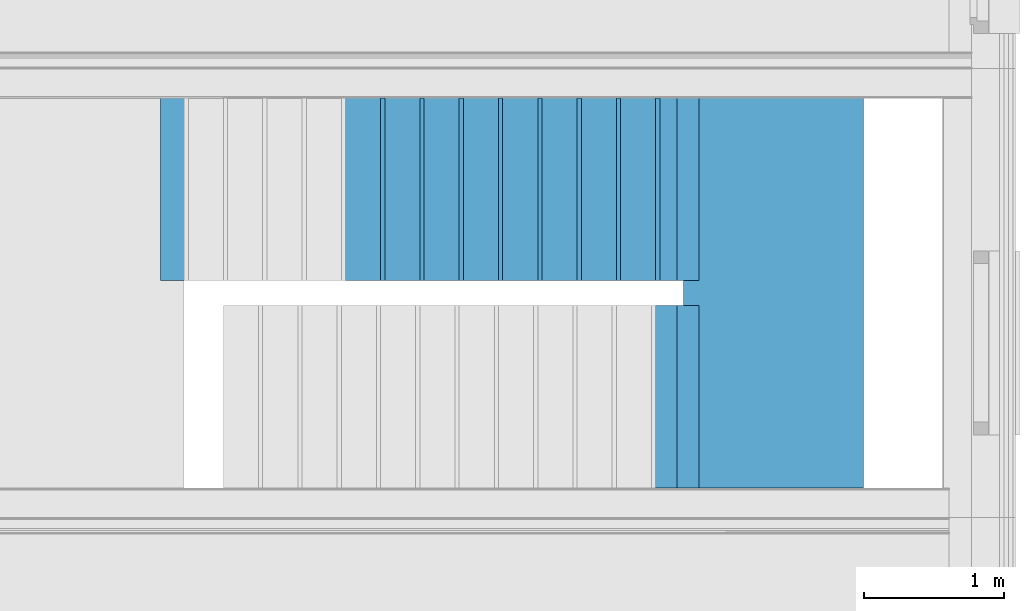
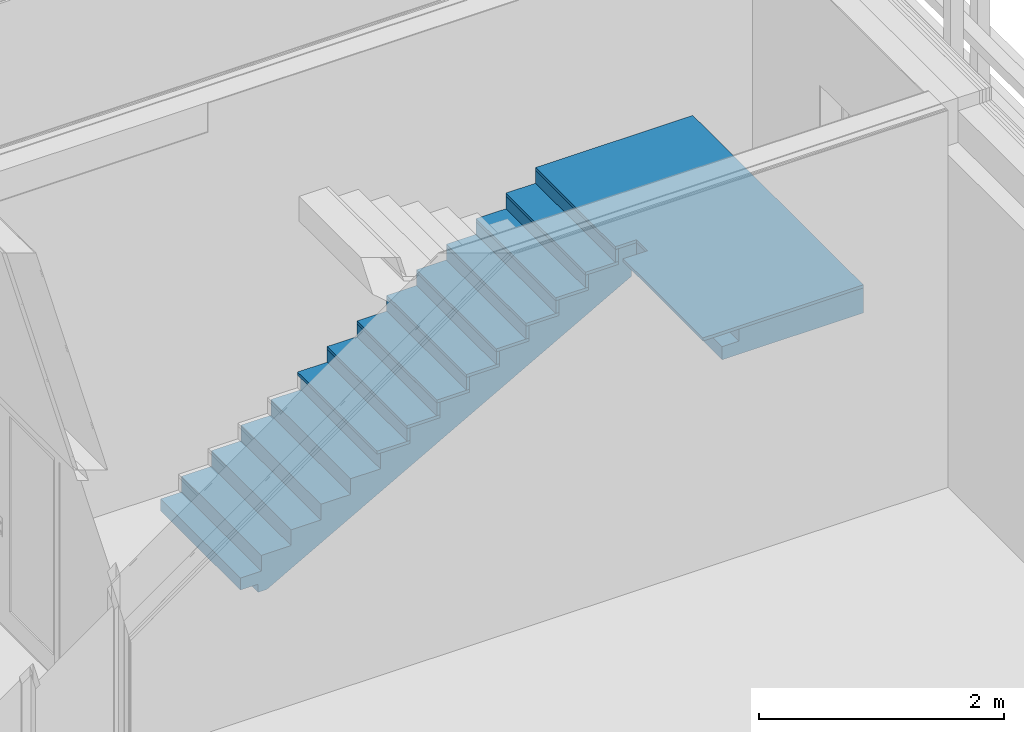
# One storey, part 45 of 139: 19 members, 1 element without a shape of its own.
"""IFC2X3 building model written with IfcOpenShell, lengths in millimetres."""

from ifc_helpers import new_model, entity, si_unit, converted_unit, derived_unit, money_unit, direction, frame, origin_with_axes, place, context, subcontext, project, spatial, faceted_brep, material, type_object, element, aggregate, save


model = new_model("IFC2X3")

# Units and contexts
model_context = context("Model", 3, precision=0.01, world=origin_with_axes(), true_north=direction((0.0, 1.0)))
body_context = subcontext(model_context, "Body", "Model", "MODEL_VIEW")
ifc_project = project(units=[si_unit("LENGTHUNIT", "METRE", prefix="MILLI"), si_unit("AREAUNIT", "SQUARE_METRE"), si_unit("VOLUMEUNIT", "CUBIC_METRE"), converted_unit("PLANEANGLEUNIT", "DEGREE", entity("IfcPlaneAngleMeasure", 0.0174532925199), si_unit("PLANEANGLEUNIT", "RADIAN"), dimensions=[0, 0, 0, 0, 0, 0, 0]), money_unit("EUR"), converted_unit("TIMEUNIT", "Year", entity("IfcTimeMeasure", 31556926.0), si_unit("TIMEUNIT", "SECOND"), dimensions=[0, 0, 1, 0, 0, 0, 0]), si_unit("MASSUNIT", "GRAM", prefix="KILO"), si_unit("THERMODYNAMICTEMPERATUREUNIT", "DEGREE_CELSIUS"), si_unit("LUMINOUSINTENSITYUNIT", "LUMEN"), si_unit("ENERGYUNIT", "JOULE", prefix="MEGA"), derived_unit("THERMALCONDUCTANCEUNIT", [(si_unit("POWERUNIT", "WATT"), 1), (si_unit("LENGTHUNIT", "METRE"), -1), (si_unit("THERMODYNAMICTEMPERATUREUNIT", "KELVIN"), -1)]), derived_unit("SPECIFICHEATCAPACITYUNIT", [(si_unit("ENERGYUNIT", "JOULE"), 1), (si_unit("MASSUNIT", "GRAM", prefix="KILO"), -1), (si_unit("THERMODYNAMICTEMPERATUREUNIT", "KELVIN"), -1)]), derived_unit("MASSDENSITYUNIT", [(si_unit("MASSUNIT", "GRAM", prefix="KILO"), 1), (si_unit("VOLUMEUNIT", "CUBIC_METRE"), -1)])], contexts=[model_context])

# Site, building, storey
site_placement = place(None, origin_with_axes())
site = spatial("IfcSite", under=ifc_project, at=site_placement, Name="Kolde pst 67a", CompositionType="ELEMENT")
building_placement = place(site_placement, origin_with_axes())
building = spatial("IfcBuilding", under=site, at=building_placement, Name="Riigigümnaasium", CompositionType="ELEMENT")
storey_placement = place(building_placement, frame((0.0, 0.0, 4600.0), z_axis=(0.0, 0.0, 1.0), x_axis=(1.0, 0.0, 0.0)))
storey = spatial("IfcBuildingStorey", under=building, at=storey_placement, Name="2. korrus", CompositionType="ELEMENT", Elevation=4600.0)

# Stair, members
stair_placement = place(storey_placement, frame((78829.6164915, 9409.92216773, 0.0), z_axis=(0.0, 0.0, 1.0), x_axis=(0.999999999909, 1.34692449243e-05, 0.0)))
stair = element("IfcStair", 1, at=stair_placement, inside=storey, Name="TREPP", ShapeType="NOTDEFINED")
ifc_material_1 = material(Name="_KANDETARIND - raudbetoon C25/30 vastavalt EK osale")
member_type_1 = type_object("IfcMemberType", Name="IfcMember", PredefinedType="USERDEFINED")
member_1_placement = place(stair_placement, origin_with_axes())
member_1 = element("IfcMember", 2, at=member_1_placement, type_object=member_type_1, material=ifc_material_1, Name="TT KONSTRUKTSIOON - 008", ObjectType="Stair Structure", context=body_context, shape_type="Brep", body=[
    faceted_brep([(-0.000269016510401, -19.9999986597, -150.0), (-168.000269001, -19.9977380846, -150.0), (-167.982777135, 1279.95179541, -150.0), (0.0172228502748, 1279.94953483, -150.0), (3266.66639711, -20.0439435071, 1547.14250951), (3359.99975694, -20.0451786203, 1599.2258577), (3509.99975692, -20.0472030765, 1682.9312149), (3509.99975692, -20.047203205, 1881.25), (3669.99974685, -20.0493624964, 1881.25), (3669.99974685, -20.0493624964, 2001.25), (3389.99972087, -20.045583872, 2001.25), (3389.99972087, -20.045583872, 1845.0), (3359.99973837, -20.0451947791, 1845.0), (3109.9997307, -20.0418320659, 1845.0), (3109.9997307, -20.0418320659, 1688.75), (2829.99973073, -20.0380662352, 1688.75), (2829.99973073, -20.0380662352, 1532.5), (2549.99973075, -20.0343004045, 1532.5), (2549.99973075, -20.0343004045, 1376.25), (2269.99973078, -20.0305329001, 1376.25), (2269.99973078, -20.0305329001, 1220.0), (1989.9997308, -20.0267670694, 1220.0), (1989.9997308, -20.0267670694, 1063.75), (1709.99973083, -20.0230012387, 1063.75), (1709.99973083, -20.0230012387, 907.5), (1429.99973085, -20.019235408, 907.5), (1429.99973085, -20.019235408, 751.25), (1149.99973088, -20.0154679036, 751.25), (1149.99973088, -20.0154679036, 595.0), (869.999730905, -20.0117020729, 595.0), (869.999730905, -20.0117020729, 438.75), (589.99973093, -20.0079362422, 438.75), (589.99973093, -20.0079362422, 282.5), (309.999730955, -20.0041704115, 282.5), (309.999730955, -20.0041704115, 126.25), (29.9997309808, -20.0004029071, 126.25), (29.9997309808, -20.0004029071, -30.0), (-0.000269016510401, -19.9999986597, -30.0), (-168.000269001, -19.9977380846, -30.0), (-0.00026901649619, -19.9999995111, -230.0), (82.0270205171, -20.0011033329, -230.0), (93.3330643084, -20.0012554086, -223.690823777), (186.666397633, -20.0025108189, -171.607490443), (279.999730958, -20.0037662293, -119.52415711), (373.333064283, -20.0050216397, -67.4408237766), (466.666397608, -20.00627705, -15.3574904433), (559.999730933, -20.0075324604, 36.72584289), (653.333064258, -20.0087946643, 88.8091762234), (746.666397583, -20.0100500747, 140.892509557), (839.999730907, -20.0113013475, 192.97584289), (933.333064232, -20.0125567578, 245.059176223), (1026.66639756, -20.0138121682, 297.142509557), (1119.99973088, -20.0150649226, 349.22584289), (1213.33306421, -20.016320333, 401.309176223), (1306.66639753, -20.0175757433, 453.392509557), (1399.99973086, -20.0188311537, 505.47584289), (1493.33306418, -20.0200865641, 557.559176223), (1586.66639751, -20.0213419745, 609.642509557), (1679.99973083, -20.0225973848, 661.72584289), (1773.33306416, -20.0238603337, 713.809176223), (1866.66639748, -20.0251157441, 765.892509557), (1959.99973081, -20.0263670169, 817.97584289), (2053.33306413, -20.0276224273, 870.059176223), (2146.66639746, -20.0288778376, 922.142509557), (2239.99973078, -20.030129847, 974.22584289), (2333.33306411, -20.0313852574, 1026.30917622), (2426.66639743, -20.0326406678, 1078.39250956), (2519.99973076, -20.0338960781, 1130.47584289), (2613.33306408, -20.0351514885, 1182.55917622), (2706.66639741, -20.0364068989, 1234.64250955), (2799.99973073, -20.0376623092, 1286.72584288), (2893.33306405, -20.0389260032, 1338.80917622), (2986.66639738, -20.0401814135, 1390.89250955), (3079.9997307, -20.0414326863, 1442.97584289), (3173.33306391, -20.0426880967, 1495.05917619), (-167.982777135, 1279.95179541, -30.0), (3110.0172161, 1279.90770325, 1845.0), (3360.01721087, 1279.9043446, 1845.0), (3390.01720204, 1279.90393313, 1845.0), (3390.01720204, 1279.90393313, 2001.25), (3670.01722799, 1279.90015618, 2001.25), (3670.01722799, 1279.90015618, 1881.25), (3510.01723807, 1279.90231488, 1881.25), (3510.01723807, 1279.9023156, 1682.93121232), (3360.01723808, 1279.90434006, 1599.22585513), (3266.68388275, 1279.9056005, 1547.14250951), (3173.35054942, 1279.90685591, 1495.05917619), (3080.0172161, 1279.90811132, 1442.97584287), (2986.68388277, 1279.90936673, 1390.89250955), (2893.35054945, 1279.91062214, 1338.80917622), (2800.01721612, 1279.91187755, 1286.72584289), (2706.6838828, 1279.91313296, 1234.64250956), (2613.35054947, 1279.91438837, 1182.55917622), (2520.01721615, 1279.91564378, 1130.47584289), (2426.68388282, 1279.91689919, 1078.39250956), (2333.3505495, 1279.9181546, 1026.30917622), (2240.01721618, 1279.91941001, 974.22584289), (2146.68388285, 1279.92066542, 922.142509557), (2053.35054953, 1279.92192083, 870.059176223), (1960.0172162, 1279.92317624, 817.97584289), (1866.68388288, 1279.92443165, 765.892509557), (1773.35054955, 1279.92568706, 713.809176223), (1680.01721623, 1279.92694247, 661.72584289), (1586.6838829, 1279.92819788, 609.642509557), (1493.35054958, 1279.92945329, 557.559176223), (1400.01721625, 1279.9307087, 505.47584289), (1306.68388293, 1279.93196411, 453.392509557), (1213.3505496, 1279.93321952, 401.309176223), (1120.01721628, 1279.93447493, 349.22584289), (1026.68388295, 1279.93573034, 297.142509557), (933.350549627, 1279.93698575, 245.059176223), (840.017216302, 1279.93824116, 192.97584289), (746.683882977, 1279.93949658, 140.892509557), (653.350549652, 1279.94075199, 88.8091762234), (560.017216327, 1279.9420074, 36.72584289), (466.683883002, 1279.94326281, -15.3574904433), (373.350549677, 1279.94451822, -67.4408237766), (280.017216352, 1279.94577363, -119.52415711), (186.683883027, 1279.94702401, -171.607490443), (93.3505497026, 1279.94827942, -223.690823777), (82.0445059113, 1279.9484315, -230.0), (0.0172187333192, 1279.94953483, -230.0), (0.0172228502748, 1279.94953483, -30.0), (30.017216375, 1279.94913179, -30.0), (30.017216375, 1279.94913179, 126.25), (310.01721635, 1279.94536556, 126.25), (310.01721635, 1279.94536556, 282.5), (590.017216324, 1279.94159933, 282.5), (590.017216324, 1279.94159933, 438.75), (870.017216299, 1279.9378331, 438.75), (870.017216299, 1279.9378331, 595.0), (1150.01721627, 1279.93406687, 595.0), (1150.01721627, 1279.93406687, 751.25), (1430.01721625, 1279.93030064, 751.25), (1430.01721625, 1279.93030064, 907.5), (1710.01721622, 1279.92653441, 907.5), (1710.01721622, 1279.92653441, 1063.75), (1990.0172162, 1279.92276818, 1063.75), (1990.0172162, 1279.92276818, 1220.0), (2270.01721617, 1279.91900195, 1220.0), (2270.01721617, 1279.91900195, 1376.25), (2550.01721615, 1279.91523571, 1376.25), (2550.01721615, 1279.91523571, 1532.5), (2830.01721612, 1279.91146948, 1532.5), (2830.01721612, 1279.91146948, 1688.75), (3110.0172161, 1279.90770325, 1688.75)], [[[0, 1, 2, 3]], [[4, 5, 6, 7, 8, 9, 10, 11, 12, 13, 14, 15, 16, 17, 18, 19, 20, 21, 22, 23, 24, 25, 26, 27, 28, 29, 30, 31, 32, 33, 34, 35, 36, 37, 38, 1, 0, 39, 40, 41, 42, 43, 44, 45, 46, 47, 48, 49, 50, 51, 52, 53, 54, 55, 56, 57, 58, 59, 60, 61, 62, 63, 64, 65, 66, 67, 68, 69, 70, 71, 72, 73, 74]], [[38, 75, 2, 1]], [[76, 77, 78, 79, 80, 81, 82, 83, 84, 85, 86, 87, 88, 89, 90, 91, 92, 93, 94, 95, 96, 97, 98, 99, 100, 101, 102, 103, 104, 105, 106, 107, 108, 109, 110, 111, 112, 113, 114, 115, 116, 117, 118, 119, 120, 121, 3, 2, 75, 122, 123, 124, 125, 126, 127, 128, 129, 130, 131, 132, 133, 134, 135, 136, 137, 138, 139, 140, 141, 142, 143, 144, 145]], [[3, 121, 39, 0]], [[85, 84, 83, 6, 5, 4]], [[82, 7, 6, 83]], [[8, 7, 82, 81]], [[81, 80, 9, 8]], [[80, 79, 10, 9]], [[10, 79, 78, 11]], [[13, 12, 11, 78, 77, 76]], [[13, 76, 145, 14]], [[15, 14, 145, 144]], [[15, 144, 143, 16]], [[17, 16, 143, 142]], [[17, 142, 141, 18]], [[19, 18, 141, 140]], [[19, 140, 139, 20]], [[21, 20, 139, 138]], [[21, 138, 137, 22]], [[23, 22, 137, 136]], [[23, 136, 135, 24]], [[25, 24, 135, 134]], [[25, 134, 133, 26]], [[27, 26, 133, 132]], [[27, 132, 131, 28]], [[29, 28, 131, 130]], [[29, 130, 129, 30]], [[31, 30, 129, 128]], [[31, 128, 127, 32]], [[33, 32, 127, 126]], [[33, 126, 125, 34]], [[35, 34, 125, 124]], [[35, 124, 123, 36]], [[122, 75, 38, 37, 36, 123]], [[39, 121, 120, 40]], [[41, 40, 120, 119]], [[42, 41, 119, 118]], [[43, 42, 118, 117]], [[44, 43, 117, 116]], [[45, 44, 116, 115]], [[46, 45, 115, 114]], [[47, 46, 114, 113]], [[48, 47, 113, 112]], [[49, 48, 112, 111]], [[50, 49, 111, 110]], [[51, 50, 110, 109]], [[52, 51, 109, 108]], [[53, 52, 108, 107]], [[54, 53, 107, 106]], [[55, 54, 106, 105]], [[56, 55, 105, 104]], [[57, 56, 104, 103]], [[58, 57, 103, 102]], [[59, 58, 102, 101]], [[60, 59, 101, 100]], [[61, 60, 100, 99]], [[62, 61, 99, 98]], [[63, 62, 98, 97]], [[64, 63, 97, 96]], [[65, 64, 96, 95]], [[66, 65, 95, 94]], [[67, 66, 94, 93]], [[68, 67, 93, 92]], [[69, 68, 92, 91]], [[70, 69, 91, 90]], [[71, 70, 90, 89]], [[72, 71, 89, 88]], [[73, 72, 88, 87]], [[74, 73, 87, 86]], [[4, 74, 86, 85]]]),
])
member_2_placement = place(stair_placement, origin_with_axes())
member_2 = element("IfcMember", 3, at=member_2_placement, type_object=member_type_1, material=ifc_material_1, Name="TM KONSTRUKTSIOON - 005", ObjectType="Stair Structure", context=body_context, shape_type="Brep", body=[
    faceted_brep([(3559.49990376, -20.0478818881, 1881.25), (3559.49990376, -20.0478818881, 2001.25), (3669.99974685, -20.0493624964, 2001.25), (3669.99974685, -20.0493624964, 1881.25), (3559.49747933, -200.045179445, 2001.25), (3559.49990376, -20.0478818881, 1751.25), (3559.49747933, -200.045179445, 1751.25), (3559.49747933, -200.045179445, 1881.25), (3669.9973028, -200.045179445, 2001.25), (3669.9973028, -1500.04519461, 2001.25), (4839.97980631, -1500.04519461, 2001.25), (4840.01725407, 1279.88441487, 2001.25), (3670.01722799, 1279.90015618, 2001.25), (3670.01722799, 1279.90015618, 1881.25), (3509.99975692, -20.0472151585, 1881.25), (3510.01723807, 1279.90231026, 1881.25), (3509.99975692, -20.0472151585, 1751.25), (3510.01723807, 1279.90231026, 1751.25), (4840.01725407, 1279.88441487, 1751.25), (4839.97980631, -1500.04519461, 1751.25), (3509.99730585, -1500.04519461, 1751.25), (3509.99730586, -200.044512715, 1751.25), (3509.99730586, -200.044512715, 1881.25), (3669.9973028, -200.045179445, 1881.25), (3669.9973028, -1500.04519461, 1881.25), (3509.99730585, -1500.04519461, 1881.25)], [[[0, 1, 2, 3]], [[4, 1, 0, 5, 6, 7]], [[1, 4, 8, 9, 10, 11, 12, 2]], [[2, 12, 13, 3]], [[14, 0, 3, 13, 15]], [[0, 14, 16, 5]], [[5, 16, 17, 18, 19, 20, 21, 6]], [[22, 7, 6, 21]], [[4, 7, 23, 8]], [[23, 24, 9, 8]], [[10, 9, 24, 25, 20, 19]], [[18, 11, 10, 19]], [[18, 17, 15, 13, 12, 11]], [[16, 14, 15, 17]], [[22, 21, 20, 25]], [[7, 22, 25, 24, 23]]]),
])
ifc_material_2 = material(Name="_VIIMISTLUSKIHT - viimistlus vastavalt SA osale")
member_type_2 = type_object("IfcMemberType", Name="IfcMember", PredefinedType="USERDEFINED")
member_3_placement = place(stair_placement, frame((1400.00874291, 649.981168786, 907.5), z_axis=(0.0, 0.0, 1.0), x_axis=(1.34508253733e-05, 0.99999999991, 0.0)))
member_3 = element("IfcMember", 4, at=member_3_placement, type_object=member_type_2, material=ifc_material_2, Name="TV TÕUS - 122", ObjectType="Stair Riser", context=body_context, shape_type="Brep", body=[
    faceted_brep([(629.949534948, 0.0, 0.0), (-670.0, 0.0, 0.0), (-670.0, -30.0, 0.0), (629.949534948, -30.0, 0.0), (629.949534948, 0.0, -126.25), (-670.0, 0.0, -126.25), (-670.0, -30.0, -126.25), (629.949534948, -30.0, -126.25)], [[[0, 1, 2, 3]], [[4, 5, 1, 0]], [[1, 5, 6, 2]], [[3, 2, 6, 7]], [[0, 3, 7, 4]], [[7, 6, 5, 4]]]),
])
member_4_placement = place(stair_placement, frame((1680.00874288, 649.977402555, 1063.75), z_axis=(0.0, 0.0, 1.0), x_axis=(1.3450825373e-05, 0.99999999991, 0.0)))
member_4 = element("IfcMember", 5, at=member_4_placement, type_object=member_type_2, material=ifc_material_2, Name="TV TÕUS - 123", ObjectType="Stair Riser", context=body_context, shape_type="Brep", body=[
    faceted_brep([(629.949534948, 0.0, 0.0), (-670.0, 0.0, 0.0), (-670.0, -30.0, 0.0), (629.949534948, -30.0, 0.0), (629.949534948, 0.0, -126.25), (-670.0, 0.0, -126.25), (-670.0, -30.0, -126.25), (629.949534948, -30.0, -126.25)], [[[0, 1, 2, 3]], [[4, 5, 1, 0]], [[1, 5, 6, 2]], [[3, 2, 6, 7]], [[0, 3, 7, 4]], [[7, 6, 5, 4]]]),
])
member_5_placement = place(stair_placement, frame((1960.00874286, 649.973636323, 1220.0), z_axis=(0.0, 0.0, 1.0), x_axis=(1.34508253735e-05, 0.99999999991, 0.0)))
member_5 = element("IfcMember", 6, at=member_5_placement, type_object=member_type_2, material=ifc_material_2, Name="TV TÕUS - 124", ObjectType="Stair Riser", context=body_context, shape_type="Brep", body=[
    faceted_brep([(629.949534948, 0.0, 0.0), (-670.0, 0.0, 0.0), (-670.0, -30.0, 0.0), (629.949534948, -30.0, 0.0), (629.949534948, 0.0, -126.25), (-670.0, 0.0, -126.25), (-670.0, -30.0, -126.25), (629.949534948, -30.0, -126.25)], [[[0, 1, 2, 3]], [[4, 5, 1, 0]], [[1, 5, 6, 2]], [[3, 2, 6, 7]], [[0, 3, 7, 4]], [[7, 6, 5, 4]]]),
])
member_6_placement = place(stair_placement, frame((2240.00874283, 649.969870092, 1376.25), z_axis=(0.0, 0.0, 1.0), x_axis=(1.34508253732e-05, 0.99999999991, 0.0)))
member_6 = element("IfcMember", 7, at=member_6_placement, type_object=member_type_2, material=ifc_material_2, Name="TV TÕUS - 125", ObjectType="Stair Riser", context=body_context, shape_type="Brep", body=[
    faceted_brep([(629.949534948, 0.0, 0.0), (-670.0, 0.0, 0.0), (-670.0, -30.0, 0.0), (629.949534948, -30.0, 0.0), (629.949534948, 0.0, -126.25), (-670.0, 0.0, -126.25), (-670.0, -30.0, -126.25), (629.949534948, -30.0, -126.25)], [[[0, 1, 2, 3]], [[4, 5, 1, 0]], [[1, 5, 6, 2]], [[3, 2, 6, 7]], [[0, 3, 7, 4]], [[7, 6, 5, 4]]]),
])
member_7_placement = place(stair_placement, frame((2520.00874281, 649.966103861, 1532.5), z_axis=(0.0, 0.0, 1.0), x_axis=(1.34508253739e-05, 0.99999999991, 0.0)))
member_7 = element("IfcMember", 8, at=member_7_placement, type_object=member_type_2, material=ifc_material_2, Name="TV TÕUS - 126", ObjectType="Stair Riser", context=body_context, shape_type="Brep", body=[
    faceted_brep([(629.949534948, 0.0, 0.0), (-670.0, 0.0, 0.0), (-670.0, -30.0, 0.0), (629.949534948, -30.0, 0.0), (629.949534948, 0.0, -126.25), (-670.0, 0.0, -126.25), (-670.0, -30.0, -126.25), (629.949534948, -30.0, -126.25)], [[[0, 1, 2, 3]], [[4, 5, 1, 0]], [[1, 5, 6, 2]], [[3, 2, 6, 7]], [[0, 3, 7, 4]], [[7, 6, 5, 4]]]),
])
member_8_placement = place(stair_placement, frame((2800.00874278, 649.96233763, 1688.75), z_axis=(0.0, 0.0, 1.0), x_axis=(1.34508253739e-05, 0.99999999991, 0.0)))
member_8 = element("IfcMember", 9, at=member_8_placement, type_object=member_type_2, material=ifc_material_2, Name="TV TÕUS - 127", ObjectType="Stair Riser", context=body_context, shape_type="Brep", body=[
    faceted_brep([(629.949534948, 0.0, 0.0), (-670.0, 0.0, 0.0), (-670.0, -30.0, 0.0), (629.949534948, -30.0, 0.0), (629.949534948, 0.0, -126.25), (-670.0, 0.0, -126.25), (-670.0, -30.0, -126.25), (629.949534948, -30.0, -126.25)], [[[0, 1, 2, 3]], [[4, 5, 1, 0]], [[1, 5, 6, 2]], [[3, 2, 6, 7]], [[0, 3, 7, 4]], [[7, 6, 5, 4]]]),
])
member_9_placement = place(stair_placement, frame((3080.00874276, 649.958571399, 1845.0), z_axis=(0.0, 0.0, 1.0), x_axis=(1.34508253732e-05, 0.99999999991, 0.0)))
member_9 = element("IfcMember", 10, at=member_9_placement, type_object=member_type_2, material=ifc_material_2, Name="TV TÕUS - 128", ObjectType="Stair Riser", context=body_context, shape_type="Brep", body=[
    faceted_brep([(629.949534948, 0.0, 0.0), (-670.0, 0.0, 0.0), (-670.0, -30.0, 0.0), (629.949534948, -30.0, 0.0), (629.949534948, 0.0, -126.25), (-670.0, 0.0, -126.25), (-670.0, -30.0, -126.25), (629.949534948, -30.0, -126.25)], [[[0, 1, 2, 3]], [[4, 5, 1, 0]], [[1, 5, 6, 2]], [[3, 2, 6, 7]], [[0, 3, 7, 4]], [[7, 6, 5, 4]]]),
])
member_10_placement = place(stair_placement, frame((3360.00874273, 649.954805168, 2001.25), z_axis=(0.0, 0.0, 1.0), x_axis=(1.34508253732e-05, 0.99999999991, 0.0)))
member_10 = element("IfcMember", 11, at=member_10_placement, type_object=member_type_2, material=ifc_material_2, Name="SL RISER - 005", ObjectType="Stair Riser", context=body_context, shape_type="Brep", body=[
    faceted_brep([(629.949534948, -30.0, 0.0), (629.949534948, 0.0, 0.0), (-670.0, 0.0, 0.0), (-670.0, -30.0, 0.0), (629.949534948, 0.0, -126.25), (629.949534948, -30.0, -126.25), (-670.0, 0.0, -126.25), (-670.0, -30.0, -126.25)], [[[0, 1, 2, 3]], [[4, 1, 0, 5]], [[1, 4, 6, 2]], [[3, 2, 6, 7]], [[5, 0, 3, 7]], [[4, 5, 7, 6]]]),
])
member_type_3 = type_object("IfcMemberType", Name="IfcMember", PredefinedType="USERDEFINED")
member_11_placement = place(stair_placement, frame((1120.00874294, 649.984935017, 781.25), z_axis=(0.0, 0.0, 1.0), x_axis=(1.34508253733e-05, 0.99999999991, 0.0)))
member_11 = element("IfcMember", 12, at=member_11_placement, type_object=member_type_3, material=ifc_material_2, Name="TV ASTE - 121", ObjectType="Stair Tread", context=body_context, shape_type="Brep", body=[
    faceted_brep([(-670.0, 0.0, -30.0), (-670.0, 0.0, 0.0), (629.949534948, 0.0, 0.0), (629.949534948, 0.0, -30.0), (-670.0, -310.000006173, -30.0), (-670.0, -310.000006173, 0.0), (629.949534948, -309.999993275, 0.0), (629.949534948, -309.999993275, -30.0)], [[[0, 1, 2, 3]], [[4, 5, 1, 0]], [[1, 5, 6, 2]], [[3, 2, 6, 7]], [[0, 3, 7, 4]], [[7, 6, 5, 4]]]),
])
member_12_placement = place(stair_placement, frame((1400.00874291, 649.981168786, 937.5), z_axis=(0.0, 0.0, 1.0), x_axis=(1.34508253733e-05, 0.99999999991, 0.0)))
member_12 = element("IfcMember", 13, at=member_12_placement, type_object=member_type_3, material=ifc_material_2, Name="TV ASTE - 122", ObjectType="Stair Tread", context=body_context, shape_type="Brep", body=[
    faceted_brep([(-670.0, 0.0, -30.0), (-670.0, 0.0, 0.0), (629.949534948, 0.0, 0.0), (629.949534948, 0.0, -30.0), (-670.0, -310.000006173, -30.0), (-670.0, -310.000006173, 0.0), (629.949534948, -309.999993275, 0.0), (629.949534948, -309.999993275, -30.0)], [[[0, 1, 2, 3]], [[4, 5, 1, 0]], [[1, 5, 6, 2]], [[3, 2, 6, 7]], [[0, 3, 7, 4]], [[7, 6, 5, 4]]]),
])
member_13_placement = place(stair_placement, frame((1680.00874288, 649.977402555, 1093.75), z_axis=(0.0, 0.0, 1.0), x_axis=(1.3450825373e-05, 0.99999999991, 0.0)))
member_13 = element("IfcMember", 14, at=member_13_placement, type_object=member_type_3, material=ifc_material_2, Name="TV ASTE - 123", ObjectType="Stair Tread", context=body_context, shape_type="Brep", body=[
    faceted_brep([(-670.0, 0.0, -30.0), (-670.0, 0.0, 0.0), (629.949534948, 0.0, 0.0), (629.949534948, 0.0, -30.0), (-670.0, -310.000006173, -30.0), (-670.0, -310.000006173, 0.0), (629.949534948, -309.999993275, 0.0), (629.949534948, -309.999993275, -30.0)], [[[0, 1, 2, 3]], [[4, 5, 1, 0]], [[1, 5, 6, 2]], [[3, 2, 6, 7]], [[0, 3, 7, 4]], [[7, 6, 5, 4]]]),
])
member_14_placement = place(stair_placement, frame((1960.00874286, 649.973636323, 1250.0), z_axis=(0.0, 0.0, 1.0), x_axis=(1.34508253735e-05, 0.99999999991, 0.0)))
member_14 = element("IfcMember", 15, at=member_14_placement, type_object=member_type_3, material=ifc_material_2, Name="TV ASTE - 124", ObjectType="Stair Tread", context=body_context, shape_type="Brep", body=[
    faceted_brep([(-670.0, 0.0, -30.0), (-670.0, 0.0, 0.0), (629.949534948, 0.0, 0.0), (629.949534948, 0.0, -30.0), (-670.0, -310.000006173, -30.0), (-670.0, -310.000006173, 0.0), (629.949534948, -309.999993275, 0.0), (629.949534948, -309.999993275, -30.0)], [[[0, 1, 2, 3]], [[4, 5, 1, 0]], [[1, 5, 6, 2]], [[3, 2, 6, 7]], [[0, 3, 7, 4]], [[7, 6, 5, 4]]]),
])
member_15_placement = place(stair_placement, frame((2240.00874283, 649.969870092, 1406.25), z_axis=(0.0, 0.0, 1.0), x_axis=(1.34508253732e-05, 0.99999999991, 0.0)))
member_15 = element("IfcMember", 16, at=member_15_placement, type_object=member_type_3, material=ifc_material_2, Name="TV ASTE - 125", ObjectType="Stair Tread", context=body_context, shape_type="Brep", body=[
    faceted_brep([(-670.0, 0.0, -30.0), (-670.0, 0.0, 0.0), (629.949534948, 0.0, 0.0), (629.949534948, 0.0, -30.0), (-670.0, -310.000006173, -30.0), (-670.0, -310.000006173, 0.0), (629.949534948, -309.999993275, 0.0), (629.949534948, -309.999993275, -30.0)], [[[0, 1, 2, 3]], [[4, 5, 1, 0]], [[1, 5, 6, 2]], [[3, 2, 6, 7]], [[0, 3, 7, 4]], [[7, 6, 5, 4]]]),
])
member_16_placement = place(stair_placement, frame((2520.00874281, 649.966103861, 1562.5), z_axis=(0.0, 0.0, 1.0), x_axis=(1.34508253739e-05, 0.99999999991, 0.0)))
member_16 = element("IfcMember", 17, at=member_16_placement, type_object=member_type_3, material=ifc_material_2, Name="TV ASTE - 126", ObjectType="Stair Tread", context=body_context, shape_type="Brep", body=[
    faceted_brep([(-670.0, 0.0, -30.0), (-670.0, 0.0, 0.0), (629.949534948, 0.0, 0.0), (629.949534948, 0.0, -30.0), (-670.0, -310.000006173, -30.0), (-670.0, -310.000006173, 0.0), (629.949534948, -309.999993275, 0.0), (629.949534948, -309.999993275, -30.0)], [[[0, 1, 2, 3]], [[4, 5, 1, 0]], [[1, 5, 6, 2]], [[3, 2, 6, 7]], [[0, 3, 7, 4]], [[7, 6, 5, 4]]]),
])
member_17_placement = place(stair_placement, frame((2800.00874278, 649.96233763, 1718.75), z_axis=(0.0, 0.0, 1.0), x_axis=(1.34508253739e-05, 0.99999999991, 0.0)))
member_17 = element("IfcMember", 18, at=member_17_placement, type_object=member_type_3, material=ifc_material_2, Name="TV ASTE - 127", ObjectType="Stair Tread", context=body_context, shape_type="Brep", body=[
    faceted_brep([(-670.0, 0.0, -30.0), (-670.0, 0.0, 0.0), (629.949534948, 0.0, 0.0), (629.949534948, 0.0, -30.0), (-670.0, -310.000006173, -30.0), (-670.0, -310.000006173, 0.0), (629.949534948, -309.999993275, 0.0), (629.949534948, -309.999993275, -30.0)], [[[0, 1, 2, 3]], [[4, 5, 1, 0]], [[1, 5, 6, 2]], [[3, 2, 6, 7]], [[0, 3, 7, 4]], [[7, 6, 5, 4]]]),
])
member_18_placement = place(stair_placement, frame((3080.00874276, 649.958571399, 1875.0), z_axis=(0.0, 0.0, 1.0), x_axis=(1.34508253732e-05, 0.99999999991, 0.0)))
member_18 = element("IfcMember", 19, at=member_18_placement, type_object=member_type_3, material=ifc_material_2, Name="TV ASTE - 128", ObjectType="Stair Tread", context=body_context, shape_type="Brep", body=[
    faceted_brep([(629.949534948, 0.0, -30.0), (-670.0, 0.0, -30.0), (-670.0, 0.0, 0.0), (629.949534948, 0.0, 0.0), (-670.0, -279.999999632, -30.0), (629.949534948, -309.999994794, -30.0), (-670.000000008, -310.000007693, -30.0), (-670.0, -279.999999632, 0.0), (-670.000000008, -310.000007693, 0.0), (629.949534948, -309.999994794, 0.0)], [[[0, 1, 2, 3]], [[4, 1, 0, 5, 6]], [[1, 4, 7, 2]], [[3, 2, 7, 8, 9]], [[5, 0, 3, 9]], [[6, 5, 9, 8]], [[4, 6, 8, 7]]]),
])
member_19_placement = place(stair_placement, frame((3360.00874273, 649.954805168, 2031.25), z_axis=(0.0, 0.0, 1.0), x_axis=(1.34508253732e-05, 0.99999999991, 0.0)))
member_19 = element("IfcMember", 20, at=member_19_placement, type_object=member_type_3, material=ifc_material_2, Name="SL TREAD - 005", ObjectType="Stair Tread", context=body_context, shape_type="Brep", body=[
    faceted_brep([(-849.997301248, -199.500169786, 0.0), (-849.997301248, -199.500169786, -30.0), (-850.000388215, 30.0000036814, -30.0), (-850.000388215, 30.0000036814, 0.0), (-669.999963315, -199.500151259, 0.0), (-669.999963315, -199.500151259, -30.0), (-2149.98009275, -1479.99998272, -30.0), (-2150.00040326, 29.9825176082, -30.0), (-669.999983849, 1.51692063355e-05, -30.0), (629.949534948, -2.2006929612e-05, -30.0), (629.949516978, -1480.00003813, -30.0), (-2150.00040326, 29.9825176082, 0.0), (-2149.98009275, -1479.99998272, 0.0), (629.949516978, -1480.00003813, 0.0), (629.949534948, -2.2006929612e-05, 0.0), (-669.999983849, 1.51692063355e-05, 0.0)], [[[0, 1, 2, 3]], [[4, 5, 1, 0]], [[6, 7, 2, 1, 5, 8, 9, 10]], [[3, 2, 7, 11]], [[4, 0, 3, 11, 12, 13, 14, 15]], [[15, 8, 5, 4]], [[11, 7, 6, 12]], [[14, 9, 8, 15]], [[13, 10, 9, 14]], [[12, 6, 10, 13]]]),
])
aggregate(stair, [member_1, member_2, member_3, member_4, member_5, member_6, member_7, member_8, member_9, member_10, member_11, member_12, member_13, member_14, member_15, member_16, member_17, member_18, member_19])

save(model, "model.ifc")
